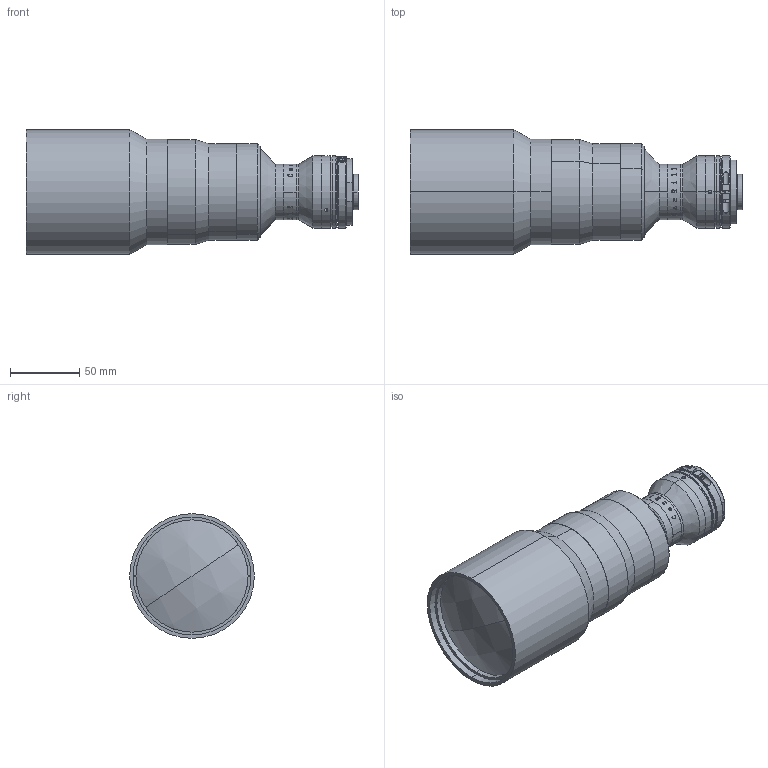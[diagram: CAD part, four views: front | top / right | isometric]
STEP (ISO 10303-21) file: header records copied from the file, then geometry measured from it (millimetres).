
FILE_DESCRIPTION (( 'STEP AP203' ), '1' );
FILE_NAME ('XF-PTL06516-C.STEP', '2020-05-09T02:00:24', ( 'puyufan' ), ( '' ), 'SwSTEP 2.0', 'SolidWorks 2014', '' );
FILE_SCHEMA (( 'CONFIG_CONTROL_DESIGN' ));
Length unit declared in the file: millimetre
Products named in the file (1): XF-PTL06516-C
Bounding box: 239.69 x 90 x 90 mm (x, y, z)
Surface area: 81523.2 mm2 (no closed solid volume)
Topology: 0 solids, 34 shells, 161 faces, 927 edges, 801 vertices
Faces by surface type: cylinder 84, plane 47, cone 12, torus 10, sphere 4, bspline 4
Entity records: 15539 total; most frequent: CARTESIAN_POINT 8788, DIRECTION 1283, ORIENTED_EDGE 1182, EDGE_CURVE 925, VERTEX_POINT 801, AXIS2_PLACEMENT_3D 498, CIRCLE 340, B_SPLINE_CURVE_WITH_KNOTS 298
